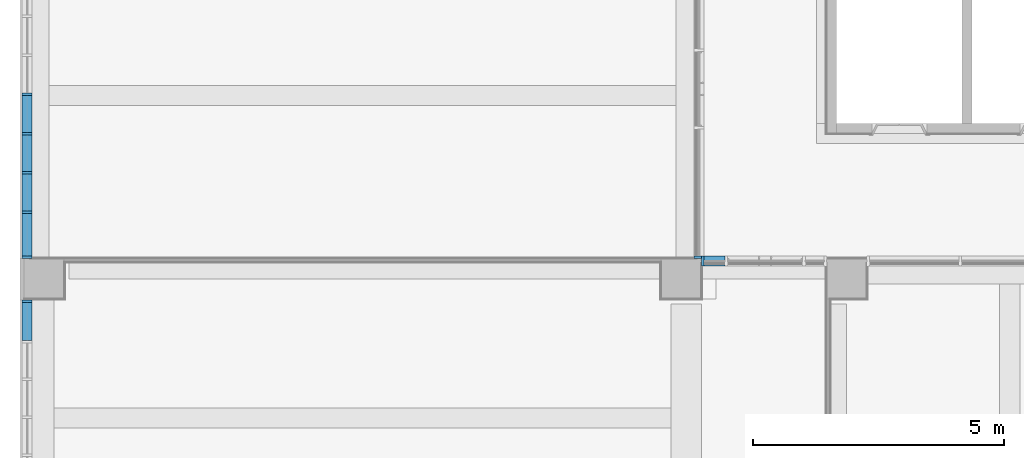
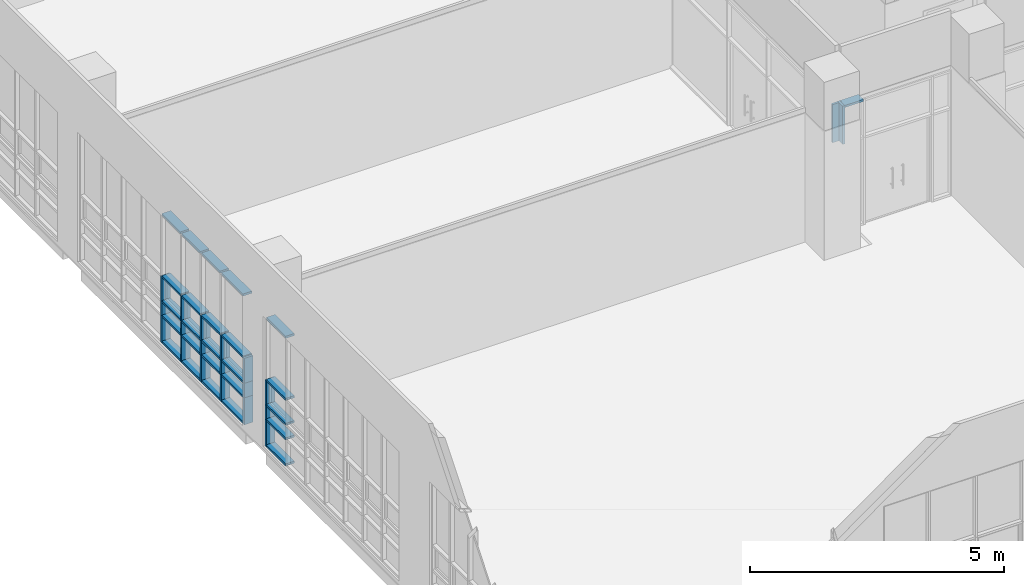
# One storey, part 15 of 74: 46 members, 4 elements without a shape of their own.
"""IFC2X3 building model written with IfcOpenShell, lengths in millimetres."""

from ifc_helpers import new_model, entity, si_unit, converted_unit, derived_unit, direction, frame, origin, origin_2d_with_axis, place, context, subcontext, project, spatial, rectangle, extrude, source, transform, mapped, material, type_object, type_shapes, element, aggregate, save


model = new_model("IFC2X3")

# Units and contexts
model_context = context("Model", 3, precision=0.01, world=origin(), true_north=direction((6.123031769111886e-17, 1.0)))
body_context = subcontext(model_context, "Body", "Model", "MODEL_VIEW")
ifc_project = project(units=[si_unit("LENGTHUNIT", "METRE", prefix="MILLI"), si_unit("AREAUNIT", "SQUARE_METRE"), si_unit("VOLUMEUNIT", "CUBIC_METRE"), converted_unit("PLANEANGLEUNIT", "DEGREE", entity("IfcRatioMeasure", 0.017453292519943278), si_unit("PLANEANGLEUNIT", "RADIAN"), dimensions=[0, 0, 0, 0, 0, 0, 0]), si_unit("MASSUNIT", "GRAM", prefix="KILO"), derived_unit("MASSDENSITYUNIT", [(si_unit("MASSUNIT", "GRAM", prefix="KILO"), 1), (si_unit("LENGTHUNIT", "METRE"), -3)]), derived_unit("MOMENTOFINERTIAUNIT", [(si_unit("LENGTHUNIT", "METRE"), 4)]), si_unit("TIMEUNIT", "SECOND"), si_unit("FREQUENCYUNIT", "HERTZ"), si_unit("THERMODYNAMICTEMPERATUREUNIT", "DEGREE_CELSIUS"), derived_unit("THERMALTRANSMITTANCEUNIT", [(si_unit("MASSUNIT", "GRAM", prefix="KILO"), 1), (si_unit("THERMODYNAMICTEMPERATUREUNIT", "KELVIN"), -1), (si_unit("TIMEUNIT", "SECOND"), -3)]), derived_unit("VOLUMETRICFLOWRATEUNIT", [(si_unit("LENGTHUNIT", "METRE"), 3), (si_unit("TIMEUNIT", "SECOND"), -1)]), derived_unit("MASSFLOWRATEUNIT", [(si_unit("MASSUNIT", "GRAM", prefix="KILO"), 1), (si_unit("TIMEUNIT", "SECOND"), -1)]), derived_unit("ROTATIONALFREQUENCYUNIT", [(si_unit("TIMEUNIT", "SECOND"), -1)]), si_unit("ELECTRICCURRENTUNIT", "AMPERE"), si_unit("ELECTRICVOLTAGEUNIT", "VOLT"), si_unit("POWERUNIT", "WATT"), si_unit("FORCEUNIT", "NEWTON", prefix="KILO"), si_unit("ILLUMINANCEUNIT", "LUX"), si_unit("LUMINOUSFLUXUNIT", "LUMEN"), si_unit("LUMINOUSINTENSITYUNIT", "CANDELA"), derived_unit("USERDEFINED", [(si_unit("MASSUNIT", "GRAM", prefix="KILO"), -1), (si_unit("LENGTHUNIT", "METRE"), -2), (si_unit("TIMEUNIT", "SECOND"), 3), (si_unit("LUMINOUSFLUXUNIT", "LUMEN"), 1)]), derived_unit("SOUNDPOWERUNIT", [(si_unit("MASSUNIT", "GRAM", prefix="KILO"), 1), (si_unit("LENGTHUNIT", "METRE"), 2), (si_unit("TIMEUNIT", "SECOND"), -3)]), derived_unit("SOUNDPRESSUREUNIT", [(si_unit("MASSUNIT", "GRAM", prefix="KILO"), 1), (si_unit("LENGTHUNIT", "METRE"), -1), (si_unit("TIMEUNIT", "SECOND"), -2)]), derived_unit("LINEARVELOCITYUNIT", [(si_unit("LENGTHUNIT", "METRE"), 1), (si_unit("TIMEUNIT", "SECOND"), -1)]), si_unit("PRESSUREUNIT", "PASCAL"), derived_unit("USERDEFINED", [(si_unit("LENGTHUNIT", "METRE"), -2), (si_unit("MASSUNIT", "GRAM", prefix="KILO"), 1), (si_unit("TIMEUNIT", "SECOND"), -2)]), derived_unit("LINEARFORCEUNIT", [(si_unit("MASSUNIT", "GRAM", prefix="KILO"), 1), (si_unit("LENGTHUNIT", "METRE"), 1), (si_unit("TIMEUNIT", "SECOND"), -2), (si_unit("LENGTHUNIT", "METRE"), -1)]), derived_unit("PLANARFORCEUNIT", [(si_unit("MASSUNIT", "GRAM", prefix="KILO"), 1), (si_unit("LENGTHUNIT", "METRE"), 1), (si_unit("TIMEUNIT", "SECOND"), -2), (si_unit("LENGTHUNIT", "METRE"), -2)])], contexts=[model_context])

# Site, building, storey
site_placement = place(None, frame((-14167.972527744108, -657.2125860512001, 0.0)))
site = spatial("IfcSite", under=ifc_project, at=site_placement, Name="Default", CompositionType="ELEMENT")
building_placement = place(site_placement, origin())
building = spatial("IfcBuilding", under=site, at=building_placement, Name="Sample Building", CompositionType="ELEMENT")
storey_placement = place(building_placement, frame((0.0, 0.0, 4800.0)))
storey = spatial("IfcBuildingStorey", under=building, at=storey_placement, Name="지상 2층", CompositionType="ELEMENT", Elevation=4800.000000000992)

# Curtain wall, members
curtain_wall_type = type_object("IfcCurtainWallType", Name="커튼월:CW112-스테인리스 스틸 커튼월", PredefinedType="NOTDEFINED")
curtain_wall_1_placement = place(storey_placement, frame((0.0, 0.0, -4800.0)))
curtain_wall_1 = element("IfcCurtainWall", 1, at=curtain_wall_1_placement, inside=storey, type_object=curtain_wall_type, Name="커튼월:CW112-스테인리스 스틸 커튼월", ObjectType="커튼월:CW112-스테인리스 스틸 커튼월")
ifc_material = material(Name="<Unnamed>")
member_type_1 = type_object("IfcMemberType", Name="직사각형 멀리언:CW200-직사각형 멀리언 50x200mm", PredefinedType="MULLION", material=ifc_material)
shared_shape_1 = source(origin(), body_context, "Body", "SweptSolid", [
    extrude(rectangle(XDim=200.0, YDim=50.0, at=origin_2d_with_axis()), frame((-25.0, 0.0, -650.0), z_axis=(0.0, 0.0, 1.0), x_axis=(0.0, -1.0, 0.0)), (0.0, 0.0, 1.0), 650.0000000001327),
])
type_shapes(member_type_1, [shared_shape_1])
member_1_placement = place(curtain_wall_1_placement, frame((14130.47257087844, 13057.212307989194, 4880.0), z_axis=(0.0, 0.0, -1.0), x_axis=(0.0, -1.0, 0.0)))
member_1 = element("IfcMember", 2, at=member_1_placement, type_object=member_type_1, material=ifc_material, Name="직사각형 멀리언:CW200-직사각형 멀리언 50x200mm", ObjectType="직사각형 멀리언:CW200-직사각형 멀리언 50x200mm", context=body_context, shape_type="MappedRepresentation", body=[
    mapped(shared_shape_1, transform((0.0, 0.0, 0.0), scale=1.0)),
])
member_type_2 = type_object("IfcMemberType", Name="직사각형 멀리언:CW200-직사각형 멀리언 50x200mm", PredefinedType="MULLION", material=ifc_material)
shared_shape_2 = source(origin(), body_context, "Body", "SweptSolid", [
    extrude(rectangle(XDim=200.0, YDim=50.0, at=origin_2d_with_axis()), frame((0.0, 0.0, -650.0), z_axis=(0.0, 0.0, 1.0), x_axis=(0.0, -1.0, 0.0)), (0.0, 0.0, 1.0), 650.0000000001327),
])
type_shapes(member_type_2, [shared_shape_2])
member_2_placement = place(curtain_wall_1_placement, frame((14130.472570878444, 16332.212275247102, 4880.0), z_axis=(0.0, 0.0, -1.0), x_axis=(0.0, -1.0, 0.0)))
member_2 = element("IfcMember", 3, at=member_2_placement, type_object=member_type_2, material=ifc_material, Name="직사각형 멀리언:CW200-직사각형 멀리언 50x200mm", ObjectType="직사각형 멀리언:CW200-직사각형 멀리언 50x200mm", context=body_context, shape_type="MappedRepresentation", body=[
    mapped(shared_shape_2, transform((0.0, 0.0, 0.0), scale=1.0)),
])
member_3_placement = place(curtain_wall_1_placement, frame((14130.472570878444, 15550.962275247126, 4880.0), z_axis=(0.0, 0.0, -1.0), x_axis=(0.0, -1.0, 0.0)))
member_3 = element("IfcMember", 4, at=member_3_placement, type_object=member_type_2, material=ifc_material, Name="직사각형 멀리언:CW200-직사각형 멀리언 50x200mm", ObjectType="직사각형 멀리언:CW200-직사각형 멀리언 50x200mm", context=body_context, shape_type="MappedRepresentation", body=[
    mapped(shared_shape_2, transform((0.0, 0.0, 0.0), scale=1.0)),
])
member_4_placement = place(curtain_wall_1_placement, frame((14130.472570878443, 14769.712275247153, 4880.0), z_axis=(0.0, 0.0, -1.0), x_axis=(0.0, -1.0, 0.0)))
member_4 = element("IfcMember", 5, at=member_4_placement, type_object=member_type_2, material=ifc_material, Name="직사각형 멀리언:CW200-직사각형 멀리언 50x200mm", ObjectType="직사각형 멀리언:CW200-직사각형 멀리언 50x200mm", context=body_context, shape_type="MappedRepresentation", body=[
    mapped(shared_shape_2, transform((0.0, 0.0, 0.0), scale=1.0)),
])
member_5_placement = place(curtain_wall_1_placement, frame((14130.472570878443, 13988.462275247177, 4880.0), z_axis=(0.0, 0.0, -1.0), x_axis=(0.0, -1.0, 0.0)))
member_5 = element("IfcMember", 6, at=member_5_placement, type_object=member_type_2, material=ifc_material, Name="직사각형 멀리언:CW200-직사각형 멀리언 50x200mm", ObjectType="직사각형 멀리언:CW200-직사각형 멀리언 50x200mm", context=body_context, shape_type="MappedRepresentation", body=[
    mapped(shared_shape_2, transform((0.0, 0.0, 0.0), scale=1.0)),
])

# Curtain wall, member
curtain_wall_2_placement = place(storey_placement, frame((0.0, 0.0, -4800.0)))
curtain_wall_2 = element("IfcCurtainWall", 7, at=curtain_wall_2_placement, inside=storey, type_object=curtain_wall_type, Name="커튼월:CW112-스테인리스 스틸 커튼월", ObjectType="커튼월:CW112-스테인리스 스틸 커튼월")
member_type_3 = type_object("IfcMemberType", Name="직사각형 멀리언:CW200-직사각형 멀리언 50x200mm", PredefinedType="MULLION", material=ifc_material)
shared_shape_3 = source(origin(), body_context, "Body", "SweptSolid", [
    extrude(rectangle(XDim=200.0, YDim=50.0, at=origin_2d_with_axis()), frame((-25.0, 0.0, -600.0), z_axis=(0.0, 0.0, 1.0), x_axis=(0.0, -1.0, 0.0)), (0.0, 0.0, 1.0), 600.0),
])
type_shapes(member_type_3, [shared_shape_3])
member_6_placement = place(curtain_wall_2_placement, frame((14130.472570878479, 12239.212307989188, 6480.0), z_axis=(0.0, 0.0, 1.0), x_axis=(0.0, 1.0, 0.0)))
member_6 = element("IfcMember", 8, at=member_6_placement, type_object=member_type_3, material=ifc_material, Name="직사각형 멀리언:CW200-직사각형 멀리언 50x200mm", ObjectType="직사각형 멀리언:CW200-직사각형 멀리언 50x200mm", context=body_context, shape_type="MappedRepresentation", body=[
    mapped(shared_shape_3, transform((0.0, 0.0, 0.0), scale=1.0)),
])

# Member
member_type_4 = type_object("IfcMemberType", Name="직사각형 멀리언:CW200-직사각형 멀리언 50x200mm", PredefinedType="MULLION", material=ifc_material)
shared_shape_4 = source(origin(), body_context, "Body", "SweptSolid", [
    extrude(rectangle(XDim=200.0, YDim=50.0, at=origin_2d_with_axis()), frame((-25.0, 0.0, -600.0), z_axis=(0.0, 0.0, 1.0), x_axis=(0.0, -1.0, 0.0)), (0.0, 0.0, 1.0), 600.0),
])
type_shapes(member_type_4, [shared_shape_4])
member_7_placement = place(curtain_wall_1_placement, frame((14130.47257087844, 13057.212307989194, 5880.0), z_axis=(0.0, 0.0, -1.0), x_axis=(0.0, -1.0, 0.0)))
member_7 = element("IfcMember", 9, at=member_7_placement, type_object=member_type_4, material=ifc_material, Name="직사각형 멀리언:CW200-직사각형 멀리언 50x200mm", ObjectType="직사각형 멀리언:CW200-직사각형 멀리언 50x200mm", context=body_context, shape_type="MappedRepresentation", body=[
    mapped(shared_shape_4, transform((0.0, 0.0, 0.0), scale=1.0)),
])

member_type_5 = type_object("IfcMemberType", Name="직사각형 멀리언:CW200-직사각형 멀리언 50x200mm", PredefinedType="MULLION", material=ifc_material)
shared_shape_5 = source(origin(), body_context, "Body", "SweptSolid", [
    extrude(rectangle(XDim=200.0, YDim=50.0, at=origin_2d_with_axis()), frame((-25.0, 0.0, -350.0), z_axis=(0.0, 0.0, 1.0), x_axis=(0.0, -1.0, 0.0)), (0.0, 0.0, 1.0), 349.9999999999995),
])
type_shapes(member_type_5, [shared_shape_5])
member_8_placement = place(curtain_wall_2_placement, frame((14130.472570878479, 12239.212307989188, 5880.0), z_axis=(0.0, 0.0, 1.0), x_axis=(0.0, 1.0, 0.0)))
member_8 = element("IfcMember", 10, at=member_8_placement, type_object=member_type_5, material=ifc_material, Name="직사각형 멀리언:CW200-직사각형 멀리언 50x200mm", ObjectType="직사각형 멀리언:CW200-직사각형 멀리언 50x200mm", context=body_context, shape_type="MappedRepresentation", body=[
    mapped(shared_shape_5, transform((0.0, 0.0, 0.0), scale=1.0)),
])

member_type_6 = type_object("IfcMemberType", Name="직사각형 멀리언:CW200-직사각형 멀리언 50x200mm", PredefinedType="MULLION", material=ifc_material)
shared_shape_6 = source(origin(), body_context, "Body", "SweptSolid", [
    extrude(rectangle(XDim=200.0, YDim=50.0, at=origin_2d_with_axis()), frame((0.0, 0.0, -600.0), z_axis=(0.0, 0.0, 1.0), x_axis=(0.0, -1.0, 0.0)), (0.0, 0.0, 1.0), 600.0),
])
type_shapes(member_type_6, [shared_shape_6])
member_9_placement = place(curtain_wall_1_placement, frame((14130.472570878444, 16332.212275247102, 5880.0), z_axis=(0.0, 0.0, -1.0), x_axis=(0.0, -1.0, 0.0)))
member_9 = element("IfcMember", 11, at=member_9_placement, type_object=member_type_6, material=ifc_material, Name="직사각형 멀리언:CW200-직사각형 멀리언 50x200mm", ObjectType="직사각형 멀리언:CW200-직사각형 멀리언 50x200mm", context=body_context, shape_type="MappedRepresentation", body=[
    mapped(shared_shape_6, transform((0.0, 0.0, 0.0), scale=1.0)),
])

member_10_placement = place(curtain_wall_1_placement, frame((14130.472570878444, 15550.962275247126, 5880.0), z_axis=(0.0, 0.0, -1.0), x_axis=(0.0, -1.0, 0.0)))
member_10 = element("IfcMember", 12, at=member_10_placement, type_object=member_type_6, material=ifc_material, Name="직사각형 멀리언:CW200-직사각형 멀리언 50x200mm", ObjectType="직사각형 멀리언:CW200-직사각형 멀리언 50x200mm", context=body_context, shape_type="MappedRepresentation", body=[
    mapped(shared_shape_6, transform((0.0, 0.0, 0.0), scale=1.0)),
])

member_11_placement = place(curtain_wall_1_placement, frame((14130.472570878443, 14769.712275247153, 5880.0), z_axis=(0.0, 0.0, -1.0), x_axis=(0.0, -1.0, 0.0)))
member_11 = element("IfcMember", 13, at=member_11_placement, type_object=member_type_6, material=ifc_material, Name="직사각형 멀리언:CW200-직사각형 멀리언 50x200mm", ObjectType="직사각형 멀리언:CW200-직사각형 멀리언 50x200mm", context=body_context, shape_type="MappedRepresentation", body=[
    mapped(shared_shape_6, transform((0.0, 0.0, 0.0), scale=1.0)),
])

member_12_placement = place(curtain_wall_1_placement, frame((14130.472570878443, 13988.462275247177, 5880.0), z_axis=(0.0, 0.0, -1.0), x_axis=(0.0, -1.0, 0.0)))
member_12 = element("IfcMember", 14, at=member_12_placement, type_object=member_type_6, material=ifc_material, Name="직사각형 멀리언:CW200-직사각형 멀리언 50x200mm", ObjectType="직사각형 멀리언:CW200-직사각형 멀리언 50x200mm", context=body_context, shape_type="MappedRepresentation", body=[
    mapped(shared_shape_6, transform((0.0, 0.0, 0.0), scale=1.0)),
])

member_type_7 = type_object("IfcMemberType", Name="직사각형 멀리언:CW200-직사각형 멀리언 50x200mm", PredefinedType="MULLION", material=ifc_material)
shared_shape_7 = source(origin(), body_context, "Body", "SweptSolid", [
    extrude(rectangle(XDim=200.0, YDim=50.0, at=origin_2d_with_axis()), frame((-25.0, 0.0, -350.0), z_axis=(0.0, 0.0, 1.0), x_axis=(0.0, -1.0, 0.0)), (0.0, 0.0, 1.0), 349.9999999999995),
])
type_shapes(member_type_7, [shared_shape_7])
member_13_placement = place(curtain_wall_1_placement, frame((14130.47257087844, 13057.212307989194, 5530.0), z_axis=(0.0, 0.0, -1.0), x_axis=(0.0, -1.0, 0.0)))
member_13 = element("IfcMember", 15, at=member_13_placement, type_object=member_type_7, material=ifc_material, Name="직사각형 멀리언:CW200-직사각형 멀리언 50x200mm", ObjectType="직사각형 멀리언:CW200-직사각형 멀리언 50x200mm", context=body_context, shape_type="MappedRepresentation", body=[
    mapped(shared_shape_7, transform((0.0, 0.0, 0.0), scale=1.0)),
])

member_type_8 = type_object("IfcMemberType", Name="직사각형 멀리언:CW200-직사각형 멀리언 50x200mm", PredefinedType="MULLION", material=ifc_material)
shared_shape_8 = source(origin(), body_context, "Body", "SweptSolid", [
    extrude(rectangle(XDim=200.0, YDim=50.0, at=origin_2d_with_axis()), frame((-25.0, 0.0, -650.0), z_axis=(0.0, 0.0, 1.0), x_axis=(0.0, -1.0, 0.0)), (0.0, 0.0, 1.0), 650.0000000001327),
])
type_shapes(member_type_8, [shared_shape_8])
member_14_placement = place(curtain_wall_2_placement, frame((14130.472570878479, 12239.212307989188, 5530.0), z_axis=(0.0, 0.0, 1.0), x_axis=(0.0, 1.0, 0.0)))
member_14 = element("IfcMember", 16, at=member_14_placement, type_object=member_type_8, material=ifc_material, Name="직사각형 멀리언:CW200-직사각형 멀리언 50x200mm", ObjectType="직사각형 멀리언:CW200-직사각형 멀리언 50x200mm", context=body_context, shape_type="MappedRepresentation", body=[
    mapped(shared_shape_8, transform((0.0, 0.0, 0.0), scale=1.0)),
])

member_type_9 = type_object("IfcMemberType", Name="직사각형 멀리언:CW200-직사각형 멀리언 50x200mm", PredefinedType="MULLION", material=ifc_material)
shared_shape_9 = source(origin(), body_context, "Body", "SweptSolid", [
    extrude(rectangle(XDim=200.0, YDim=50.0, at=origin_2d_with_axis()), frame((0.0, 0.0, -350.0), z_axis=(0.0, 0.0, 1.0), x_axis=(0.0, -1.0, 0.0)), (0.0, 0.0, 1.0), 349.9999999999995),
])
type_shapes(member_type_9, [shared_shape_9])
member_15_placement = place(curtain_wall_1_placement, frame((14130.472570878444, 16332.212275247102, 5530.0), z_axis=(0.0, 0.0, -1.0), x_axis=(0.0, -1.0, 0.0)))
member_15 = element("IfcMember", 17, at=member_15_placement, type_object=member_type_9, material=ifc_material, Name="직사각형 멀리언:CW200-직사각형 멀리언 50x200mm", ObjectType="직사각형 멀리언:CW200-직사각형 멀리언 50x200mm", context=body_context, shape_type="MappedRepresentation", body=[
    mapped(shared_shape_9, transform((0.0, 0.0, 0.0), scale=1.0)),
])

member_16_placement = place(curtain_wall_1_placement, frame((14130.472570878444, 15550.962275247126, 5530.0), z_axis=(0.0, 0.0, -1.0), x_axis=(0.0, -1.0, 0.0)))
member_16 = element("IfcMember", 18, at=member_16_placement, type_object=member_type_9, material=ifc_material, Name="직사각형 멀리언:CW200-직사각형 멀리언 50x200mm", ObjectType="직사각형 멀리언:CW200-직사각형 멀리언 50x200mm", context=body_context, shape_type="MappedRepresentation", body=[
    mapped(shared_shape_9, transform((0.0, 0.0, 0.0), scale=1.0)),
])

member_17_placement = place(curtain_wall_1_placement, frame((14130.472570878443, 14769.712275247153, 5530.0), z_axis=(0.0, 0.0, -1.0), x_axis=(0.0, -1.0, 0.0)))
member_17 = element("IfcMember", 19, at=member_17_placement, type_object=member_type_9, material=ifc_material, Name="직사각형 멀리언:CW200-직사각형 멀리언 50x200mm", ObjectType="직사각형 멀리언:CW200-직사각형 멀리언 50x200mm", context=body_context, shape_type="MappedRepresentation", body=[
    mapped(shared_shape_9, transform((0.0, 0.0, 0.0), scale=1.0)),
])

member_18_placement = place(curtain_wall_1_placement, frame((14130.472570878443, 13988.462275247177, 5530.0), z_axis=(0.0, 0.0, -1.0), x_axis=(0.0, -1.0, 0.0)))
member_18 = element("IfcMember", 20, at=member_18_placement, type_object=member_type_9, material=ifc_material, Name="직사각형 멀리언:CW200-직사각형 멀리언 50x200mm", ObjectType="직사각형 멀리언:CW200-직사각형 멀리언 50x200mm", context=body_context, shape_type="MappedRepresentation", body=[
    mapped(shared_shape_9, transform((0.0, 0.0, 0.0), scale=1.0)),
])

member_type_10 = type_object("IfcMemberType", Name="직사각형 멀리언:CW200-직사각형 멀리언 50x200mm", PredefinedType="MULLION", material=ifc_material)
shared_shape_10 = source(origin(), body_context, "Body", "SweptSolid", [
    extrude(rectangle(XDim=200.0, YDim=50.0, at=origin_2d_with_axis()), frame((-25.0, 0.0, -856.2499672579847), z_axis=(0.0, 0.0, 1.0), x_axis=(0.0, -1.0, 0.0)), (0.0, 0.0, 1.0), 856.2499672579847),
])
type_shapes(member_type_10, [shared_shape_10])
member_19_placement = place(curtain_wall_1_placement, frame((14130.47257087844, 13107.212307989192, 8000.0), z_axis=(0.0, -1.0, 0.0), x_axis=(0.0, 0.0, 1.0)))
member_19 = element("IfcMember", 21, at=member_19_placement, type_object=member_type_10, material=ifc_material, Name="직사각형 멀리언:CW200-직사각형 멀리언 50x200mm", ObjectType="직사각형 멀리언:CW200-직사각형 멀리언 50x200mm", context=body_context, shape_type="MappedRepresentation", body=[
    mapped(shared_shape_10, transform((0.0, 0.0, 0.0), scale=1.0)),
])

member_type_11 = type_object("IfcMemberType", Name="직사각형 멀리언:CW200-직사각형 멀리언 50x200mm", PredefinedType="MULLION", material=ifc_material)
shared_shape_11 = source(origin(), body_context, "Body", "SweptSolid", [
    extrude(rectangle(XDim=200.0, YDim=50.0, at=origin_2d_with_axis()), frame((-25.0, 0.0, -731.2499999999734), z_axis=(0.0, 0.0, 1.0), x_axis=(0.0, -1.0, 0.0)), (0.0, 0.0, 1.0), 731.2499999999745),
])
type_shapes(member_type_11, [shared_shape_11])
member_20_placement = place(curtain_wall_1_placement, frame((14130.472570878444, 16307.212275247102, 4880.0), z_axis=(0.0, 1.0, 0.0), x_axis=(0.0, 0.0, -1.0)))
member_20 = element("IfcMember", 22, at=member_20_placement, type_object=member_type_11, material=ifc_material, Name="직사각형 멀리언:CW200-직사각형 멀리언 50x200mm", ObjectType="직사각형 멀리언:CW200-직사각형 멀리언 50x200mm", context=body_context, shape_type="MappedRepresentation", body=[
    mapped(shared_shape_11, transform((0.0, 0.0, 0.0), scale=1.0)),
])

member_21_placement = place(curtain_wall_1_placement, frame((14130.472570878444, 15525.962275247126, 4880.0), z_axis=(0.0, 1.0, 0.0), x_axis=(0.0, 0.0, -1.0)))
member_21 = element("IfcMember", 23, at=member_21_placement, type_object=member_type_11, material=ifc_material, Name="직사각형 멀리언:CW200-직사각형 멀리언 50x200mm", ObjectType="직사각형 멀리언:CW200-직사각형 멀리언 50x200mm", context=body_context, shape_type="MappedRepresentation", body=[
    mapped(shared_shape_11, transform((0.0, 0.0, 0.0), scale=1.0)),
])

member_22_placement = place(curtain_wall_1_placement, frame((14130.472570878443, 14744.712275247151, 4880.0), z_axis=(0.0, 1.0, 0.0), x_axis=(0.0, 0.0, -1.0)))
member_22 = element("IfcMember", 24, at=member_22_placement, type_object=member_type_11, material=ifc_material, Name="직사각형 멀리언:CW200-직사각형 멀리언 50x200mm", ObjectType="직사각형 멀리언:CW200-직사각형 멀리언 50x200mm", context=body_context, shape_type="MappedRepresentation", body=[
    mapped(shared_shape_11, transform((0.0, 0.0, 0.0), scale=1.0)),
])

member_type_12 = type_object("IfcMemberType", Name="직사각형 멀리언:CW200-직사각형 멀리언 50x200mm", PredefinedType="MULLION", material=ifc_material)
shared_shape_12 = source(origin(), body_context, "Body", "SweptSolid", [
    extrude(rectangle(XDim=200.0, YDim=50.0, at=origin_2d_with_axis()), frame((-25.0, 0.0, -731.2499999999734), z_axis=(0.0, 0.0, 1.0), x_axis=(0.0, -1.0, 0.0)), (0.0, 0.0, 1.0), 731.2499999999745),
])
type_shapes(member_type_12, [shared_shape_12])
member_23_placement = place(curtain_wall_1_placement, frame((14130.472570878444, 15575.962275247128, 8000.0), z_axis=(0.0, -1.0, 0.0), x_axis=(0.0, 0.0, 1.0)))
member_23 = element("IfcMember", 25, at=member_23_placement, type_object=member_type_12, material=ifc_material, Name="직사각형 멀리언:CW200-직사각형 멀리언 50x200mm", ObjectType="직사각형 멀리언:CW200-직사각형 멀리언 50x200mm", context=body_context, shape_type="MappedRepresentation", body=[
    mapped(shared_shape_12, transform((0.0, 0.0, 0.0), scale=1.0)),
])

member_24_placement = place(curtain_wall_1_placement, frame((14130.472570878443, 14794.712275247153, 8000.0), z_axis=(0.0, -1.0, 0.0), x_axis=(0.0, 0.0, 1.0)))
member_24 = element("IfcMember", 26, at=member_24_placement, type_object=member_type_12, material=ifc_material, Name="직사각형 멀리언:CW200-직사각형 멀리언 50x200mm", ObjectType="직사각형 멀리언:CW200-직사각형 멀리언 50x200mm", context=body_context, shape_type="MappedRepresentation", body=[
    mapped(shared_shape_12, transform((0.0, 0.0, 0.0), scale=1.0)),
])

member_25_placement = place(curtain_wall_1_placement, frame((14130.472570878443, 14013.462275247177, 8000.0), z_axis=(0.0, -1.0, 0.0), x_axis=(0.0, 0.0, 1.0)))
member_25 = element("IfcMember", 27, at=member_25_placement, type_object=member_type_12, material=ifc_material, Name="직사각형 멀리언:CW200-직사각형 멀리언 50x200mm", ObjectType="직사각형 멀리언:CW200-직사각형 멀리언 50x200mm", context=body_context, shape_type="MappedRepresentation", body=[
    mapped(shared_shape_12, transform((0.0, 0.0, 0.0), scale=1.0)),
])

member_type_13 = type_object("IfcMemberType", Name="직사각형 멀리언:CW200-직사각형 멀리언 50x200mm", PredefinedType="MULLION", material=ifc_material)
shared_shape_13 = source(origin(), body_context, "Body", "SweptSolid", [
    extrude(rectangle(XDim=200.0, YDim=50.0, at=origin_2d_with_axis()), frame((-25.0, 0.0, -856.2499672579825), z_axis=(0.0, 0.0, 1.0), x_axis=(0.0, -1.0, 0.0)), (0.0, 0.0, 1.0), 856.2499672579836),
])
type_shapes(member_type_13, [shared_shape_13])
member_26_placement = place(curtain_wall_1_placement, frame((14130.472570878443, 13963.462275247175, 4880.0), z_axis=(0.0, 1.0, 0.0), x_axis=(0.0, 0.0, -1.0)))
member_26 = element("IfcMember", 28, at=member_26_placement, type_object=member_type_13, material=ifc_material, Name="직사각형 멀리언:CW200-직사각형 멀리언 50x200mm", ObjectType="직사각형 멀리언:CW200-직사각형 멀리언 50x200mm", context=body_context, shape_type="MappedRepresentation", body=[
    mapped(shared_shape_13, transform((0.0, 0.0, 0.0), scale=1.0)),
])

member_type_14 = type_object("IfcMemberType", Name="직사각형 멀리언:CW200-직사각형 멀리언 50x200mm", PredefinedType="MULLION", material=ifc_material)
shared_shape_14 = source(origin(), body_context, "Body", "SweptSolid", [
    extrude(rectangle(XDim=200.0, YDim=50.0, at=origin_2d_with_axis()), frame((0.0, 0.0, -731.2499999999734), z_axis=(0.0, 0.0, 1.0), x_axis=(0.0, -1.0, 0.0)), (0.0, 0.0, 1.0), 731.2499999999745),
])
type_shapes(member_type_14, [shared_shape_14])
member_27_placement = place(curtain_wall_1_placement, frame((14130.472570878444, 15575.962275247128, 6480.0), z_axis=(0.0, -1.0, 0.0), x_axis=(0.0, 0.0, 1.0)))
member_27 = element("IfcMember", 29, at=member_27_placement, type_object=member_type_14, material=ifc_material, Name="직사각형 멀리언:CW200-직사각형 멀리언 50x200mm", ObjectType="직사각형 멀리언:CW200-직사각형 멀리언 50x200mm", context=body_context, shape_type="MappedRepresentation", body=[
    mapped(shared_shape_14, transform((0.0, 0.0, 0.0), scale=1.0)),
])

member_28_placement = place(curtain_wall_1_placement, frame((14130.472570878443, 14794.712275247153, 6480.0), z_axis=(0.0, -1.0, 0.0), x_axis=(0.0, 0.0, 1.0)))
member_28 = element("IfcMember", 30, at=member_28_placement, type_object=member_type_14, material=ifc_material, Name="직사각형 멀리언:CW200-직사각형 멀리언 50x200mm", ObjectType="직사각형 멀리언:CW200-직사각형 멀리언 50x200mm", context=body_context, shape_type="MappedRepresentation", body=[
    mapped(shared_shape_14, transform((0.0, 0.0, 0.0), scale=1.0)),
])

member_29_placement = place(curtain_wall_1_placement, frame((14130.472570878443, 14013.462275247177, 6480.0), z_axis=(0.0, -1.0, 0.0), x_axis=(0.0, 0.0, 1.0)))
member_29 = element("IfcMember", 31, at=member_29_placement, type_object=member_type_14, material=ifc_material, Name="직사각형 멀리언:CW200-직사각형 멀리언 50x200mm", ObjectType="직사각형 멀리언:CW200-직사각형 멀리언 50x200mm", context=body_context, shape_type="MappedRepresentation", body=[
    mapped(shared_shape_14, transform((0.0, 0.0, 0.0), scale=1.0)),
])

member_30_placement = place(curtain_wall_1_placement, frame((14130.472570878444, 15575.962275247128, 5880.0), z_axis=(0.0, -1.0, 0.0), x_axis=(0.0, 0.0, 1.0)))
member_30 = element("IfcMember", 32, at=member_30_placement, type_object=member_type_14, material=ifc_material, Name="직사각형 멀리언:CW200-직사각형 멀리언 50x200mm", ObjectType="직사각형 멀리언:CW200-직사각형 멀리언 50x200mm", context=body_context, shape_type="MappedRepresentation", body=[
    mapped(shared_shape_14, transform((0.0, 0.0, 0.0), scale=1.0)),
])

member_31_placement = place(curtain_wall_1_placement, frame((14130.472570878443, 14794.712275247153, 5880.0), z_axis=(0.0, -1.0, 0.0), x_axis=(0.0, 0.0, 1.0)))
member_31 = element("IfcMember", 33, at=member_31_placement, type_object=member_type_14, material=ifc_material, Name="직사각형 멀리언:CW200-직사각형 멀리언 50x200mm", ObjectType="직사각형 멀리언:CW200-직사각형 멀리언 50x200mm", context=body_context, shape_type="MappedRepresentation", body=[
    mapped(shared_shape_14, transform((0.0, 0.0, 0.0), scale=1.0)),
])

member_32_placement = place(curtain_wall_1_placement, frame((14130.472570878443, 14013.462275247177, 5880.0), z_axis=(0.0, -1.0, 0.0), x_axis=(0.0, 0.0, 1.0)))
member_32 = element("IfcMember", 34, at=member_32_placement, type_object=member_type_14, material=ifc_material, Name="직사각형 멀리언:CW200-직사각형 멀리언 50x200mm", ObjectType="직사각형 멀리언:CW200-직사각형 멀리언 50x200mm", context=body_context, shape_type="MappedRepresentation", body=[
    mapped(shared_shape_14, transform((0.0, 0.0, 0.0), scale=1.0)),
])

member_33_placement = place(curtain_wall_1_placement, frame((14130.472570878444, 15575.962275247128, 5530.0), z_axis=(0.0, -1.0, 0.0), x_axis=(0.0, 0.0, 1.0)))
member_33 = element("IfcMember", 35, at=member_33_placement, type_object=member_type_14, material=ifc_material, Name="직사각형 멀리언:CW200-직사각형 멀리언 50x200mm", ObjectType="직사각형 멀리언:CW200-직사각형 멀리언 50x200mm", context=body_context, shape_type="MappedRepresentation", body=[
    mapped(shared_shape_14, transform((0.0, 0.0, 0.0), scale=1.0)),
])

member_34_placement = place(curtain_wall_1_placement, frame((14130.472570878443, 14794.712275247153, 5530.0), z_axis=(0.0, -1.0, 0.0), x_axis=(0.0, 0.0, 1.0)))
member_34 = element("IfcMember", 36, at=member_34_placement, type_object=member_type_14, material=ifc_material, Name="직사각형 멀리언:CW200-직사각형 멀리언 50x200mm", ObjectType="직사각형 멀리언:CW200-직사각형 멀리언 50x200mm", context=body_context, shape_type="MappedRepresentation", body=[
    mapped(shared_shape_14, transform((0.0, 0.0, 0.0), scale=1.0)),
])

member_35_placement = place(curtain_wall_1_placement, frame((14130.472570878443, 14013.462275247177, 5530.0), z_axis=(0.0, -1.0, 0.0), x_axis=(0.0, 0.0, 1.0)))
member_35 = element("IfcMember", 37, at=member_35_placement, type_object=member_type_14, material=ifc_material, Name="직사각형 멀리언:CW200-직사각형 멀리언 50x200mm", ObjectType="직사각형 멀리언:CW200-직사각형 멀리언 50x200mm", context=body_context, shape_type="MappedRepresentation", body=[
    mapped(shared_shape_14, transform((0.0, 0.0, 0.0), scale=1.0)),
])

member_type_15 = type_object("IfcMemberType", Name="직사각형 멀리언:CW200-직사각형 멀리언 50x200mm", PredefinedType="MULLION", material=ifc_material)
shared_shape_15 = source(origin(), body_context, "Body", "SweptSolid", [
    extrude(rectangle(XDim=200.0, YDim=50.0, at=origin_2d_with_axis()), frame((0.0, 0.0, -856.2499672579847), z_axis=(0.0, 0.0, 1.0), x_axis=(0.0, -1.0, 0.0)), (0.0, 0.0, 1.0), 856.2499672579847),
])
type_shapes(member_type_15, [shared_shape_15])
member_36_placement = place(curtain_wall_1_placement, frame((14130.47257087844, 13107.212307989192, 6480.0), z_axis=(0.0, -1.0, 0.0), x_axis=(0.0, 0.0, 1.0)))
member_36 = element("IfcMember", 38, at=member_36_placement, type_object=member_type_15, material=ifc_material, Name="직사각형 멀리언:CW200-직사각형 멀리언 50x200mm", ObjectType="직사각형 멀리언:CW200-직사각형 멀리언 50x200mm", context=body_context, shape_type="MappedRepresentation", body=[
    mapped(shared_shape_15, transform((0.0, 0.0, 0.0), scale=1.0)),
])

member_37_placement = place(curtain_wall_1_placement, frame((14130.47257087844, 13107.212307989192, 5880.0), z_axis=(0.0, -1.0, 0.0), x_axis=(0.0, 0.0, 1.0)))
member_37 = element("IfcMember", 39, at=member_37_placement, type_object=member_type_15, material=ifc_material, Name="직사각형 멀리언:CW200-직사각형 멀리언 50x200mm", ObjectType="직사각형 멀리언:CW200-직사각형 멀리언 50x200mm", context=body_context, shape_type="MappedRepresentation", body=[
    mapped(shared_shape_15, transform((0.0, 0.0, 0.0), scale=1.0)),
])

member_38_placement = place(curtain_wall_1_placement, frame((14130.47257087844, 13107.212307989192, 5530.0), z_axis=(0.0, -1.0, 0.0), x_axis=(0.0, 0.0, 1.0)))
member_38 = element("IfcMember", 40, at=member_38_placement, type_object=member_type_15, material=ifc_material, Name="직사각형 멀리언:CW200-직사각형 멀리언 50x200mm", ObjectType="직사각형 멀리언:CW200-직사각형 멀리언 50x200mm", context=body_context, shape_type="MappedRepresentation", body=[
    mapped(shared_shape_15, transform((0.0, 0.0, 0.0), scale=1.0)),
])

aggregate(curtain_wall_1, [member_19, member_1, member_20, member_2, member_23, member_21, member_3, member_24, member_22, member_4, member_25, member_26, member_5, member_27, member_28, member_29, member_36, member_7, member_30, member_31, member_32, member_37, member_9, member_10, member_11, member_12, member_13, member_33, member_34, member_35, member_38, member_15, member_16, member_17, member_18])

member_type_16 = type_object("IfcMemberType", Name="직사각형 멀리언:CW200-직사각형 멀리언 50x200mm", PredefinedType="MULLION", material=ifc_material)
shared_shape_16 = source(origin(), body_context, "Body", "SweptSolid", [
    extrude(rectangle(XDim=200.0, YDim=50.0, at=origin_2d_with_axis()), frame((-25.0, 0.0, -760.5714613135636), z_axis=(0.0, 0.0, 1.0), x_axis=(0.0, -1.0, 0.0)), (0.0, 0.0, 1.0), 760.5714613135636),
])
type_shapes(member_type_16, [shared_shape_16])
member_39_placement = place(curtain_wall_2_placement, frame((14130.472570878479, 12189.212307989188, 4880.0), z_axis=(0.0, 1.0, 0.0), x_axis=(0.0, 0.0, -1.0)))
member_39 = element("IfcMember", 41, at=member_39_placement, type_object=member_type_16, material=ifc_material, Name="직사각형 멀리언:CW200-직사각형 멀리언 50x200mm", ObjectType="직사각형 멀리언:CW200-직사각형 멀리언 50x200mm", context=body_context, shape_type="MappedRepresentation", body=[
    mapped(shared_shape_16, transform((0.0, 0.0, 0.0), scale=1.0)),
])

member_type_17 = type_object("IfcMemberType", Name="직사각형 멀리언:CW200-직사각형 멀리언 50x200mm", PredefinedType="MULLION", material=ifc_material)
shared_shape_17 = source(origin(), body_context, "Body", "SweptSolid", [
    extrude(rectangle(XDim=200.0, YDim=50.0, at=origin_2d_with_axis()), frame((-25.0, 0.0, -760.5714613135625), z_axis=(0.0, 0.0, 1.0), x_axis=(0.0, -1.0, 0.0)), (0.0, 0.0, 1.0), 760.5714613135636),
])
type_shapes(member_type_17, [shared_shape_17])
member_40_placement = place(curtain_wall_2_placement, frame((14130.472570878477, 11428.640846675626, 8000.0), z_axis=(0.0, -1.0, 0.0), x_axis=(0.0, 0.0, 1.0)))
member_40 = element("IfcMember", 42, at=member_40_placement, type_object=member_type_17, material=ifc_material, Name="직사각형 멀리언:CW200-직사각형 멀리언 50x200mm", ObjectType="직사각형 멀리언:CW200-직사각형 멀리언 50x200mm", context=body_context, shape_type="MappedRepresentation", body=[
    mapped(shared_shape_17, transform((0.0, 0.0, 0.0), scale=1.0)),
])

member_type_18 = type_object("IfcMemberType", Name="직사각형 멀리언:CW200-직사각형 멀리언 50x200mm", PredefinedType="MULLION", material=ifc_material)
shared_shape_18 = source(origin(), body_context, "Body", "SweptSolid", [
    extrude(rectangle(XDim=200.0, YDim=50.0, at=origin_2d_with_axis()), frame((0.0, 0.0, -760.5714613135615), z_axis=(0.0, 0.0, 1.0), x_axis=(0.0, -1.0, 0.0)), (0.0, 0.0, 1.0), 760.5714613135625),
])
type_shapes(member_type_18, [shared_shape_18])
member_41_placement = place(curtain_wall_2_placement, frame((14130.472570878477, 11428.640846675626, 6480.0), z_axis=(0.0, -1.0, 0.0), x_axis=(0.0, 0.0, 1.0)))
member_41 = element("IfcMember", 43, at=member_41_placement, type_object=member_type_18, material=ifc_material, Name="직사각형 멀리언:CW200-직사각형 멀리언 50x200mm", ObjectType="직사각형 멀리언:CW200-직사각형 멀리언 50x200mm", context=body_context, shape_type="MappedRepresentation", body=[
    mapped(shared_shape_18, transform((0.0, 0.0, 0.0), scale=1.0)),
])

member_42_placement = place(curtain_wall_2_placement, frame((14130.472570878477, 11428.640846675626, 5880.0), z_axis=(0.0, -1.0, 0.0), x_axis=(0.0, 0.0, 1.0)))
member_42 = element("IfcMember", 44, at=member_42_placement, type_object=member_type_18, material=ifc_material, Name="직사각형 멀리언:CW200-직사각형 멀리언 50x200mm", ObjectType="직사각형 멀리언:CW200-직사각형 멀리언 50x200mm", context=body_context, shape_type="MappedRepresentation", body=[
    mapped(shared_shape_18, transform((0.0, 0.0, 0.0), scale=1.0)),
])

member_43_placement = place(curtain_wall_2_placement, frame((14130.472570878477, 11428.640846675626, 5530.0), z_axis=(0.0, -1.0, 0.0), x_axis=(0.0, 0.0, 1.0)))
member_43 = element("IfcMember", 45, at=member_43_placement, type_object=member_type_18, material=ifc_material, Name="직사각형 멀리언:CW200-직사각형 멀리언 50x200mm", ObjectType="직사각형 멀리언:CW200-직사각형 멀리언 50x200mm", context=body_context, shape_type="MappedRepresentation", body=[
    mapped(shared_shape_18, transform((0.0, 0.0, 0.0), scale=1.0)),
])

aggregate(curtain_wall_2, [member_39, member_40, member_6, member_41, member_8, member_42, member_14, member_43])

# Curtain wall, member
curtain_wall_3_placement = place(storey_placement, frame((0.0, 0.0, -4800.0)))
curtain_wall_3 = element("IfcCurtainWall", 46, at=curtain_wall_3_placement, inside=storey, type_object=curtain_wall_type, Name="커튼월:CW112-스테인리스 스틸 커튼월", ObjectType="커튼월:CW112-스테인리스 스틸 커튼월")
member_type_19 = type_object("IfcMemberType", Name="직사각형 멀리언:CW200-직사각형 멀리언 50x200mm", PredefinedType="MULLION", material=ifc_material)
shared_shape_19 = source(origin(), body_context, "Body", "SweptSolid", [
    extrude(rectangle(XDim=200.0, YDim=50.0, at=origin_2d_with_axis()), frame((-25.0, 0.0, -920.0), z_axis=(0.0, 0.0, 1.0), x_axis=(0.0, -1.0, 0.0)), (0.0, 0.0, 1.0), 920.0000000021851),
])
type_shapes(member_type_19, [shared_shape_19])
member_44_placement = place(curtain_wall_3_placement, frame((27522.972491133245, 13057.212307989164, 6980.0), z_axis=(0.0, 0.0, -1.0), x_axis=(0.0, -1.0, 0.0)))
member_44 = element("IfcMember", 47, at=member_44_placement, type_object=member_type_19, material=ifc_material, Name="직사각형 멀리언:CW200-직사각형 멀리언 50x200mm", ObjectType="직사각형 멀리언:CW200-직사각형 멀리언 50x200mm", context=body_context, shape_type="MappedRepresentation", body=[
    mapped(shared_shape_19, transform((0.0, 0.0, 0.0), scale=1.0)),
])
aggregate(curtain_wall_3, [member_44])

# Curtain wall, members
curtain_wall_4_placement = place(storey_placement, frame((0.0, 0.0, -4800.0)))
curtain_wall_4 = element("IfcCurtainWall", 48, at=curtain_wall_4_placement, inside=storey, type_object=curtain_wall_type, Name="커튼월:CW112-스테인리스 스틸 커튼월", ObjectType="커튼월:CW112-스테인리스 스틸 커튼월")
member_type_20 = type_object("IfcMemberType", Name="직사각형 멀리언:CW200-직사각형 멀리언 50x200mm", PredefinedType="MULLION", material=ifc_material)
shared_shape_20 = source(origin(), body_context, "Body", "SweptSolid", [
    extrude(rectangle(XDim=200.0, YDim=50.0, at=origin_2d_with_axis()), frame((-25.0, 0.0, -423.1454999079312), z_axis=(0.0, 0.0, 1.0), x_axis=(0.0, -1.0, 0.0)), (0.0, 0.0, 1.0), 423.1454999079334),
])
type_shapes(member_type_20, [shared_shape_20])
member_45_placement = place(curtain_wall_4_placement, frame((27617.980314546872, 13012.212307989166, 7900.0), z_axis=(-1.0, 0.0, 0.0), x_axis=(0.0, 0.0, 1.0)))
member_45 = element("IfcMember", 49, at=member_45_placement, type_object=member_type_20, material=ifc_material, Name="직사각형 멀리언:CW200-직사각형 멀리언 50x200mm", ObjectType="직사각형 멀리언:CW200-직사각형 멀리언 50x200mm", context=body_context, shape_type="MappedRepresentation", body=[
    mapped(shared_shape_20, transform((0.0, 0.0, 0.0), scale=1.0)),
])
member_type_21 = type_object("IfcMemberType", Name="직사각형 멀리언:CW200-직사각형 멀리언 50x200mm", PredefinedType="MULLION", material=ifc_material)
shared_shape_21 = source(origin(), body_context, "Body", "SweptSolid", [
    extrude(rectangle(XDim=200.0, YDim=50.0, at=origin_2d_with_axis()), frame((-25.0, 0.0, -920.0), z_axis=(0.0, 0.0, 1.0), x_axis=(0.0, -1.0, 0.0)), (0.0, 0.0, 1.0), 920.0000000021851),
])
type_shapes(member_type_21, [shared_shape_21])
member_46_placement = place(curtain_wall_4_placement, frame((27567.98031454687, 13012.212307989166, 6980.0), z_axis=(0.0, 0.0, -1.0), x_axis=(-1.0, 0.0, 0.0)))
member_46 = element("IfcMember", 50, at=member_46_placement, type_object=member_type_21, material=ifc_material, Name="직사각형 멀리언:CW200-직사각형 멀리언 50x200mm", ObjectType="직사각형 멀리언:CW200-직사각형 멀리언 50x200mm", context=body_context, shape_type="MappedRepresentation", body=[
    mapped(shared_shape_21, transform((0.0, 0.0, 0.0), scale=1.0)),
])
aggregate(curtain_wall_4, [member_45, member_46])

save(model, "model.ifc")
